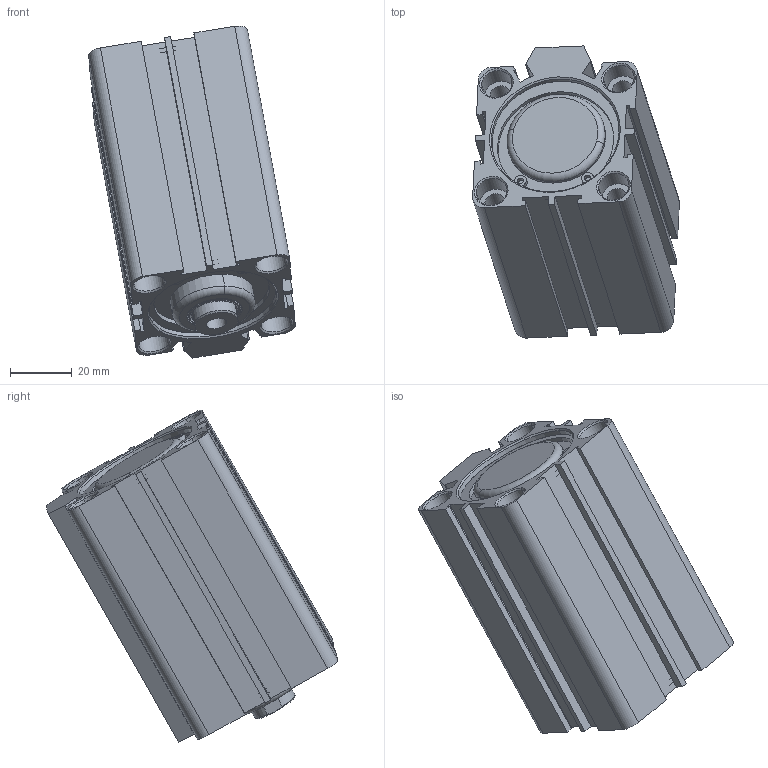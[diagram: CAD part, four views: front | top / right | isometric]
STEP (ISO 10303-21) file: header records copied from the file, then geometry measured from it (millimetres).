
FILE_DESCRIPTION (( 'STEP AP214' ), '1' );
FILE_NAME ('SDA_40_50_WEB.STEP', '2021-01-22T12:15:14', ( 'cagdas' ), ( '' ), 'SwSTEP 2.0', 'SolidWorks 2021', '' );
FILE_SCHEMA (( 'AUTOMOTIVE_DESIGN' ));
Length unit declared in the file: millimetre
Products named in the file (8): SDA40ONKAPAK; SDA40ARKAKAPAK; SDA_40_BORU_WEB; 16_MIL_WEB; SDA40PAPYUZUK; SDA_40_50_WEB; SDA40SEGMAN; SDA40BOGAZKECESI
Assembly tree (8 placements, depth 2):
  SDA_40_50_WEB
    SDA40ARKAKAPAK
    SDA40SEGMAN  x2
    SDA40ONKAPAK
    SDA40PAPYUZUK
    SDA40BOGAZKECESI
    SDA_40_BORU_WEB
    16_MIL_WEB
Bounding box: 66.75 x 94.25 x 107.22 mm (x, y, z)
Volume: 121389.3 mm3; surface area: 61518.9 mm2
Topology: 8 solids, 8 shells, 474 faces, 1175 edges, 758 vertices
Faces by surface type: plane 185, cylinder 128, bspline 85, cone 72, torus 4
Entity records: 19871 total; most frequent: CARTESIAN_POINT 7117, ORIENTED_EDGE 2254, DIRECTION 2025, EDGE_CURVE 1127, VERTEX_POINT 726, AXIS2_PLACEMENT_3D 698, VECTOR 629, LINE 629
